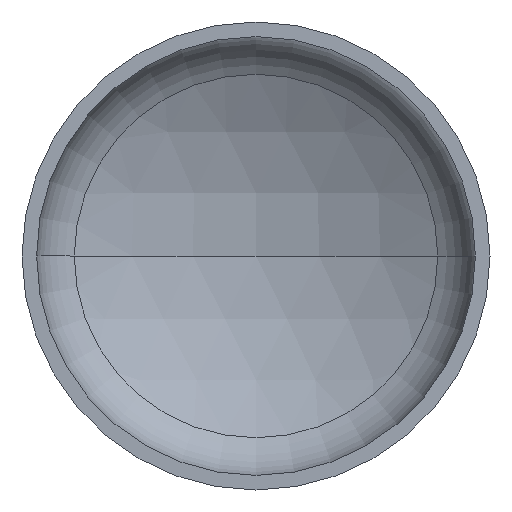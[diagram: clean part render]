
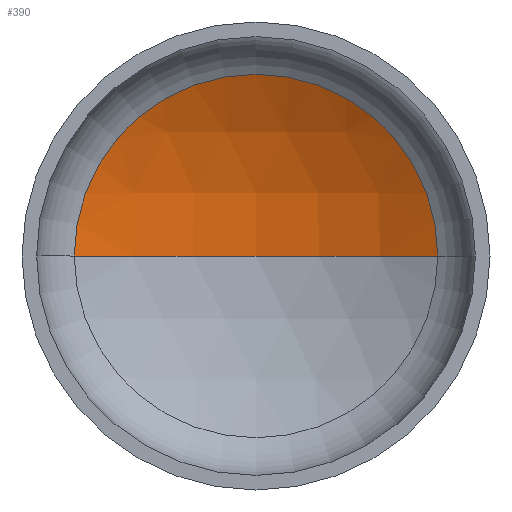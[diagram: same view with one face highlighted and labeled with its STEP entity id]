
A CAD part, front view. The second image highlights one B-rep face of the part: STEP entity #390.
In plain terms, the highlighted spherical face has radius 640 mm.
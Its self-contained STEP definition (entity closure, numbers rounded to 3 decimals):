
#21 = DIRECTION ( 'NONE',  ( 1., 0., 0. ) ) ;
#24 = DIRECTION ( 'NONE',  ( 0., 0., 1. ) ) ;
#25 = AXIS2_PLACEMENT_3D ( 'NONE', #271, #24, #21 ) ;
#26 = AXIS2_PLACEMENT_3D ( 'NONE', #83, #276, #117 ) ;
#28 = AXIS2_PLACEMENT_3D ( 'NONE', #166, #168, #145 ) ;
#60 = EDGE_CURVE ( 'NONE', #274, #322, #376, .T. ) ;
#61 = ORIENTED_EDGE ( 'NONE', *, *, #75, .F. ) ;
#66 = EDGE_CURVE ( 'NONE', #289, #274, #297, .T. ) ;
#73 = DIRECTION ( 'NONE',  ( -1., 0., 0. ) ) ;
#75 = EDGE_CURVE ( 'NONE', #289, #322, #157, .T. ) ;
#80 = CARTESIAN_POINT ( 'NONE',  ( -310.68, 184.284, 0. ) ) ;
#83 = CARTESIAN_POINT ( 'NONE',  ( 0., -375.25, 0. ) ) ;
#108 = ORIENTED_EDGE ( 'NONE', *, *, #66, .T. ) ;
#111 = CARTESIAN_POINT ( 'NONE',  ( 0., 264.75, 0. ) ) ;
#117 = DIRECTION ( 'NONE',  ( -1., 0., 0. ) ) ;
#136 = CARTESIAN_POINT ( 'NONE',  ( 310.68, 184.284, 0. ) ) ;
#145 = DIRECTION ( 'NONE',  ( 1., 0., 0. ) ) ;
#157 = CIRCLE ( 'NONE', #25, 640. ) ;
#166 = CARTESIAN_POINT ( 'NONE',  ( 0., 184.284, 0. ) ) ;
#168 = DIRECTION ( 'NONE',  ( 0., -1., 0. ) ) ;
#170 = FACE_OUTER_BOUND ( 'NONE', #411, .T. ) ;
#234 = ORIENTED_EDGE ( 'NONE', *, *, #60, .T. ) ;
#271 = CARTESIAN_POINT ( 'NONE',  ( 0., -375.25, 0. ) ) ;
#274 = VERTEX_POINT ( 'NONE', #136 ) ;
#276 = DIRECTION ( 'NONE',  ( 0., 0., -1. ) ) ;
#282 = DIRECTION ( 'NONE',  ( 0., 0., -1. ) ) ;
#289 = VERTEX_POINT ( 'NONE', #111 ) ;
#297 = CIRCLE ( 'NONE', #26, 640. ) ;
#322 = VERTEX_POINT ( 'NONE', #80 ) ;
#374 = CARTESIAN_POINT ( 'NONE',  ( 0., -375.25, 0. ) ) ;
#376 = CIRCLE ( 'NONE', #28, 310.68 ) ;
#379 = SPHERICAL_SURFACE ( 'NONE', #383, 640. ) ;
#383 = AXIS2_PLACEMENT_3D ( 'NONE', #374, #282, #73 ) ;
#390 = ADVANCED_FACE ( 'NONE', ( #170 ), #379, .F. ) ;
#411 = EDGE_LOOP ( 'NONE', ( #61, #108, #234 ) ) ;
